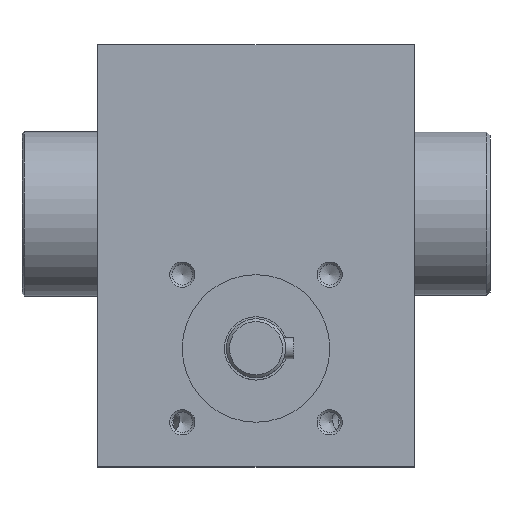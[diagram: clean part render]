
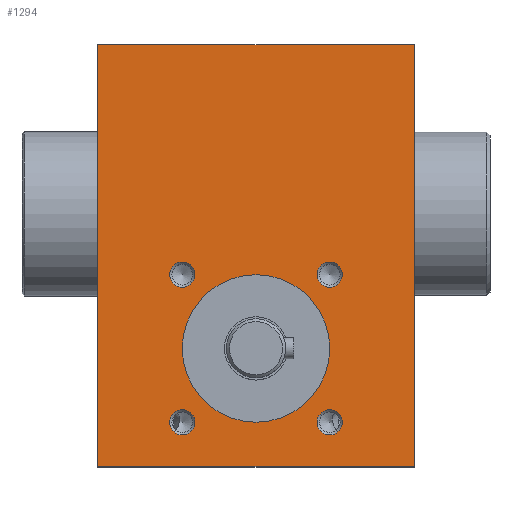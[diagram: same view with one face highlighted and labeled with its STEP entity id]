
A CAD part, top view. The second image highlights one B-rep face of the part: STEP entity #1294.
In plain terms, the highlighted planar face has unit normal (0, 0, 1).
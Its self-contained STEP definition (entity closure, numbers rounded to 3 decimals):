
#159=FACE_BOUND('',#442,.T.);
#160=FACE_BOUND('',#443,.T.);
#161=FACE_BOUND('',#444,.T.);
#162=FACE_BOUND('',#445,.T.);
#163=FACE_BOUND('',#446,.T.);
#219=LINE('',#2023,#259);
#223=LINE('',#2041,#263);
#227=LINE('',#2103,#267);
#228=LINE('',#2104,#268);
#259=VECTOR('',#1605,100.);
#263=VECTOR('',#1621,75.);
#267=VECTOR('',#1689,100.);
#268=VECTOR('',#1690,75.);
#316=FACE_OUTER_BOUND('',#441,.T.);
#441=EDGE_LOOP('',(#995,#996,#997,#998));
#442=EDGE_LOOP('',(#999));
#443=EDGE_LOOP('',(#1000));
#444=EDGE_LOOP('',(#1001));
#445=EDGE_LOOP('',(#1002));
#446=EDGE_LOOP('',(#1003));
#591=CIRCLE('',#1409,17.5);
#601=CIRCLE('',#1429,3.);
#602=CIRCLE('',#1430,3.);
#603=CIRCLE('',#1431,3.);
#604=CIRCLE('',#1432,3.);
#670=VERTEX_POINT('',#2020);
#671=VERTEX_POINT('',#2022);
#679=VERTEX_POINT('',#2039);
#689=VERTEX_POINT('',#2072);
#699=VERTEX_POINT('',#2102);
#700=VERTEX_POINT('',#2105);
#701=VERTEX_POINT('',#2107);
#702=VERTEX_POINT('',#2109);
#703=VERTEX_POINT('',#2111);
#793=EDGE_CURVE('',#671,#670,#219,.T.);
#802=EDGE_CURVE('',#670,#679,#223,.T.);
#814=EDGE_CURVE('',#689,#689,#591,.T.);
#824=EDGE_CURVE('',#679,#699,#227,.T.);
#825=EDGE_CURVE('',#699,#671,#228,.T.);
#826=EDGE_CURVE('',#700,#700,#601,.T.);
#827=EDGE_CURVE('',#701,#701,#602,.T.);
#828=EDGE_CURVE('',#702,#702,#603,.T.);
#829=EDGE_CURVE('',#703,#703,#604,.T.);
#995=ORIENTED_EDGE('',*,*,#793,.T.);
#996=ORIENTED_EDGE('',*,*,#802,.T.);
#997=ORIENTED_EDGE('',*,*,#824,.T.);
#998=ORIENTED_EDGE('',*,*,#825,.T.);
#999=ORIENTED_EDGE('',*,*,#826,.F.);
#1000=ORIENTED_EDGE('',*,*,#827,.F.);
#1001=ORIENTED_EDGE('',*,*,#828,.F.);
#1002=ORIENTED_EDGE('',*,*,#829,.F.);
#1003=ORIENTED_EDGE('',*,*,#814,.F.);
#1249=PLANE('',#1428);
#1294=ADVANCED_FACE('',(#316,#159,#160,#161,#162,#163),#1249,.T.);
#1409=AXIS2_PLACEMENT_3D('',#2073,#1649,#1650);
#1428=AXIS2_PLACEMENT_3D('',#2101,#1687,#1688);
#1429=AXIS2_PLACEMENT_3D('',#2106,#1691,#1692);
#1430=AXIS2_PLACEMENT_3D('',#2108,#1693,#1694);
#1431=AXIS2_PLACEMENT_3D('',#2110,#1695,#1696);
#1432=AXIS2_PLACEMENT_3D('',#2112,#1697,#1698);
#1605=DIRECTION('',(0.,-1.,0.));
#1621=DIRECTION('',(1.,0.,0.));
#1649=DIRECTION('center_axis',(0.,0.,1.));
#1650=DIRECTION('ref_axis',(1.,0.,0.));
#1687=DIRECTION('center_axis',(0.,0.,1.));
#1688=DIRECTION('ref_axis',(1.,0.,0.));
#1689=DIRECTION('',(0.,1.,0.));
#1690=DIRECTION('',(-1.,0.,0.));
#1691=DIRECTION('center_axis',(0.,0.,1.));
#1692=DIRECTION('ref_axis',(1.,0.,0.));
#1693=DIRECTION('center_axis',(0.,0.,1.));
#1694=DIRECTION('ref_axis',(1.,0.,0.));
#1695=DIRECTION('center_axis',(0.,0.,1.));
#1696=DIRECTION('ref_axis',(1.,0.,0.));
#1697=DIRECTION('center_axis',(0.,0.,1.));
#1698=DIRECTION('ref_axis',(1.,0.,0.));
#2020=CARTESIAN_POINT('',(0.,-60.,42.5));
#2022=CARTESIAN_POINT('',(0.,40.,42.5));
#2023=CARTESIAN_POINT('',(0.,40.,42.5));
#2039=CARTESIAN_POINT('',(75.,-60.,42.5));
#2041=CARTESIAN_POINT('',(0.,-60.,42.5));
#2072=CARTESIAN_POINT('',(55.,-32.,42.5));
#2073=CARTESIAN_POINT('Origin',(37.5,-32.,42.5));
#2101=CARTESIAN_POINT('Origin',(0.,-60.,42.5));
#2102=CARTESIAN_POINT('',(75.,40.,42.5));
#2103=CARTESIAN_POINT('',(75.,-60.,42.5));
#2104=CARTESIAN_POINT('',(75.,40.,42.5));
#2105=CARTESIAN_POINT('',(23.,-14.5,42.5));
#2106=CARTESIAN_POINT('Origin',(20.,-14.5,42.5));
#2107=CARTESIAN_POINT('',(58.,-14.5,42.5));
#2108=CARTESIAN_POINT('Origin',(55.,-14.5,42.5));
#2109=CARTESIAN_POINT('',(58.,-49.5,42.5));
#2110=CARTESIAN_POINT('Origin',(55.,-49.5,42.5));
#2111=CARTESIAN_POINT('',(23.,-49.5,42.5));
#2112=CARTESIAN_POINT('Origin',(20.,-49.5,42.5));
